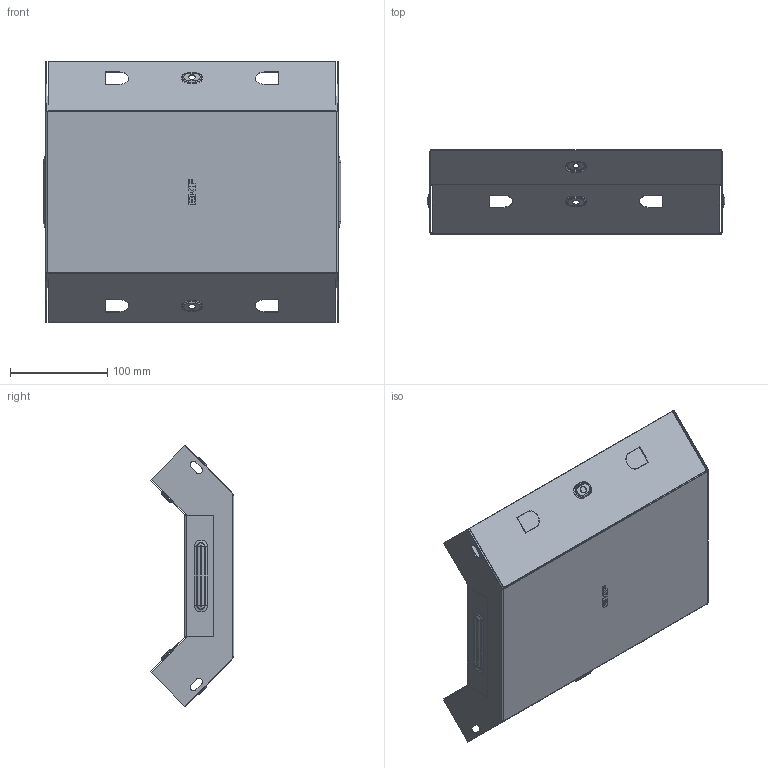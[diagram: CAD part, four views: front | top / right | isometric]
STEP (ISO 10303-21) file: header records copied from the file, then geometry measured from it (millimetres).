
FILE_DESCRIPTION (( 'STEP AP214' ), '1' );
FILE_NAME ('vi9050300_捘.STEP', '2019-06-10T09:22:22', ( '砐錪賧瘔蠈錪 Windows' ), ( '' ), 'SwSTEP 2.0', 'SolidWorks 2018', '' );
FILE_SCHEMA (( 'AUTOMOTIVE_DESIGN' ));
Length unit declared in the file: millimetre
Products named in the file (1): vi9050300_捘
Bounding box: 305.6 x 86.16 x 267.58 mm (x, y, z)
Volume: 152443.3 mm3; surface area: 383930.9 mm2
Topology: 2 solids, 2 shells, 432 faces, 1104 edges, 704 vertices
Faces by surface type: plane 234, cylinder 116, torus 64, bspline 18
Entity records: 13972 total; most frequent: CARTESIAN_POINT 3260, DIRECTION 2226, ORIENTED_EDGE 2208, EDGE_CURVE 1104, AXIS2_PLACEMENT_3D 743, LINE 740, VECTOR 740, VERTEX_POINT 704
